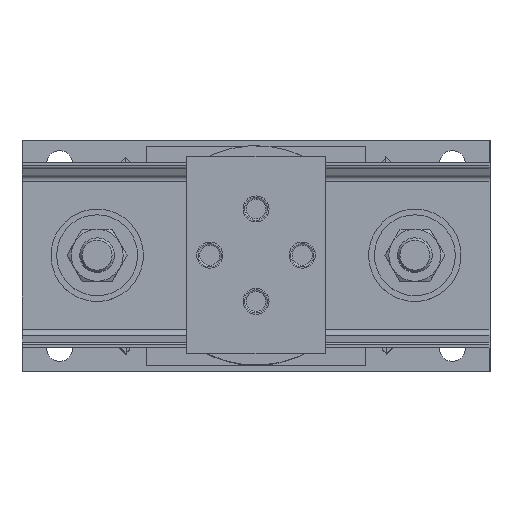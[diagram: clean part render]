
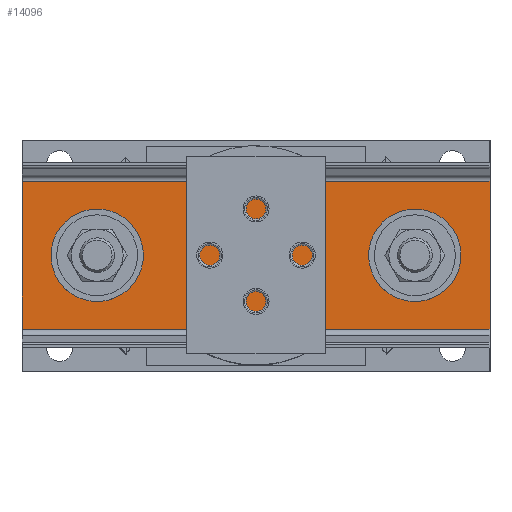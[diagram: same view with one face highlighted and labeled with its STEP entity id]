
A CAD part, top view. The second image highlights one B-rep face of the part: STEP entity #14096.
In plain terms, the highlighted planar face has unit normal (0, 0, 1).
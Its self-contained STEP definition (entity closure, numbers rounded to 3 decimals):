
#1716=LINE('',#18500,#2222);
#1740=LINE('',#18559,#2246);
#1741=LINE('',#18562,#2247);
#1742=LINE('',#18563,#2248);
#2222=VECTOR('',#16373,20.25);
#2246=VECTOR('',#16427,20.25);
#2247=VECTOR('',#16432,6.396);
#2248=VECTOR('',#16433,6.396);
#3052=PLANE('',#15199);
#3282=FACE_BOUND('',#4547,.T.);
#3283=FACE_BOUND('',#4548,.T.);
#3284=FACE_BOUND('',#4549,.T.);
#3520=FACE_OUTER_BOUND('',#4546,.T.);
#4546=EDGE_LOOP('',(#9538,#9539,#9540,#9541));
#4547=EDGE_LOOP('',(#9542));
#4548=EDGE_LOOP('',(#9543));
#4549=EDGE_LOOP('',(#9544));
#5535=CIRCLE('',#15173,0.188);
#5537=CIRCLE('',#15176,1.125);
#5539=CIRCLE('',#15179,1.125);
#5948=VERTEX_POINT('',#18480);
#5950=VERTEX_POINT('',#18485);
#5952=VERTEX_POINT('',#18490);
#5953=VERTEX_POINT('',#18493);
#5956=VERTEX_POINT('',#18498);
#5975=VERTEX_POINT('',#18556);
#5976=VERTEX_POINT('',#18558);
#7209=EDGE_CURVE('',#5948,#5948,#5535,.T.);
#7211=EDGE_CURVE('',#5950,#5950,#5537,.T.);
#7213=EDGE_CURVE('',#5952,#5952,#5539,.T.);
#7217=EDGE_CURVE('',#5956,#5953,#1716,.T.);
#7246=EDGE_CURVE('',#5976,#5975,#1740,.T.);
#7248=EDGE_CURVE('',#5975,#5953,#1741,.T.);
#7249=EDGE_CURVE('',#5976,#5956,#1742,.T.);
#9538=ORIENTED_EDGE('',*,*,#7248,.T.);
#9539=ORIENTED_EDGE('',*,*,#7217,.F.);
#9540=ORIENTED_EDGE('',*,*,#7249,.F.);
#9541=ORIENTED_EDGE('',*,*,#7246,.T.);
#9542=ORIENTED_EDGE('',*,*,#7209,.T.);
#9543=ORIENTED_EDGE('',*,*,#7211,.T.);
#9544=ORIENTED_EDGE('',*,*,#7213,.T.);
#14096=ADVANCED_FACE('',(#3520,#3282,#3283,#3284),#3052,.T.);
#15173=AXIS2_PLACEMENT_3D('',#18481,#16352,#16353);
#15176=AXIS2_PLACEMENT_3D('',#18486,#16358,#16359);
#15179=AXIS2_PLACEMENT_3D('',#18491,#16364,#16365);
#15199=AXIS2_PLACEMENT_3D('',#18561,#16430,#16431);
#16352=DIRECTION('center_axis',(0.,0.,
-1.));
#16353=DIRECTION('ref_axis',(1.,0.,0.));
#16358=DIRECTION('center_axis',(0.,0.,
-1.));
#16359=DIRECTION('ref_axis',(1.,0.,0.));
#16364=DIRECTION('center_axis',(0.,0.,
-1.));
#16365=DIRECTION('ref_axis',(1.,0.,0.));
#16373=DIRECTION('',(-1.,0.,0.));
#16427=DIRECTION('',(-1.,0.,0.));
#16430=DIRECTION('center_axis',(0.,0.,
1.));
#16431=DIRECTION('ref_axis',(1.,0.,0.));
#16432=DIRECTION('',(0.,-1.,0.));
#16433=DIRECTION('',(0.,-1.,0.));
#18480=CARTESIAN_POINT('',(0.188,0.,18.46));
#18481=CARTESIAN_POINT('Origin',(0.,0.,
18.46));
#18485=CARTESIAN_POINT('',(8.,0.,18.46));
#18486=CARTESIAN_POINT('Origin',(6.875,0.,
18.46));
#18490=CARTESIAN_POINT('',(-5.75,0.,18.46));
#18491=CARTESIAN_POINT('Origin',(-6.875,0.,
18.46));
#18493=CARTESIAN_POINT('',(-10.125,-3.198,18.46));
#18498=CARTESIAN_POINT('',(10.125,-3.198,18.46));
#18500=CARTESIAN_POINT('',(10.125,-3.198,18.46));
#18556=CARTESIAN_POINT('',(-10.125,3.198,18.46));
#18558=CARTESIAN_POINT('',(10.125,3.198,18.46));
#18559=CARTESIAN_POINT('',(10.125,3.198,18.46));
#18561=CARTESIAN_POINT('Origin',(10.125,0.,18.46));
#18562=CARTESIAN_POINT('',(-10.125,0.,18.46));
#18563=CARTESIAN_POINT('',(10.125,0.,18.46));
